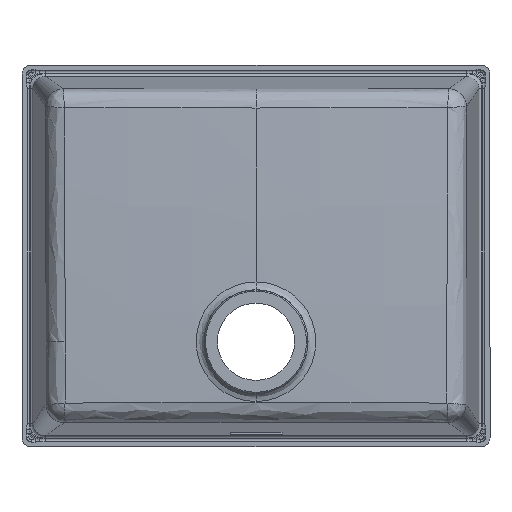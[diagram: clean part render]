
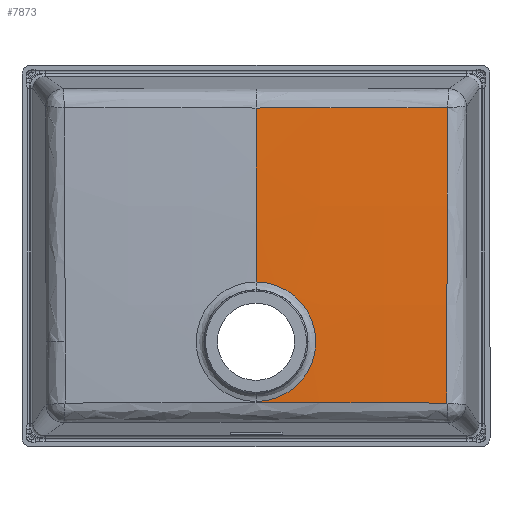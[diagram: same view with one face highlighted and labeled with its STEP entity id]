
A CAD part, front view. The second image highlights one B-rep face of the part: STEP entity #7873.
In plain terms, the highlighted free-form (B-spline) face has degree [3, 3] with [4, 4] control points.
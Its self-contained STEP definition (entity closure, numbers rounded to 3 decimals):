
#34 =( BOUNDED_SURFACE ( )  B_SPLINE_SURFACE ( 3, 3, ( 
 ( #6711, #5083, #10025, #4325 ),
 ( #3572, #121, #2854, #6071 ),
 ( #2815, #3613, #3717, #6934 ),
 ( #9383, #10349, #2777, #1256 ) ),
 .UNSPECIFIED., .F., .F., .F. ) 
 B_SPLINE_SURFACE_WITH_KNOTS ( ( 4, 4 ),
 ( 4, 4 ),
 ( 0., 1. ),
 ( 0., 1. ),
 .UNSPECIFIED. ) 
 GEOMETRIC_REPRESENTATION_ITEM ( )  RATIONAL_B_SPLINE_SURFACE ( (
 ( 1., 1., 1., 1.),
 ( 1., 0.999, 0.999, 1.),
 ( 1., 0.999, 0.999, 1.),
 ( 1., 1., 1., 1.) ) ) 
 REPRESENTATION_ITEM ( '' )  SURFACE ( )  );
#121 = CARTESIAN_POINT ( 'NONE',  ( 433.488, -207.493, -291.819 ) ) ;
#441 = ORIENTED_EDGE ( 'NONE', *, *, #4743, .T. ) ;
#702 = CARTESIAN_POINT ( 'NONE',  ( 285., 4738.597, 367.764 ) ) ;
#847 = ORIENTED_EDGE ( 'NONE', *, *, #10421, .F. ) ;
#916 = DIRECTION ( 'NONE',  ( 0., 0., -1. ) ) ;
#922 = AXIS2_PLACEMENT_3D ( 'NONE', #8863, #10536, #10641 ) ;
#1015 = CIRCLE ( 'NONE', #922, 4964.91 ) ;
#1205 = CIRCLE ( 'NONE', #3625, 4958.198 ) ;
#1256 = CARTESIAN_POINT ( 'NONE',  ( 285., -200.599, -61.899 ) ) ;
#1287 = CIRCLE ( 'NONE', #10539, 4982.322 ) ;
#1429 = DIRECTION ( 'NONE',  ( 0., 0., -1. ) ) ;
#1897 = ORIENTED_EDGE ( 'NONE', *, *, #6085, .T. ) ;
#2186 = CIRCLE ( 'NONE', #2963, 68.952 ) ;
#2232 = CARTESIAN_POINT ( 'NONE',  ( 285., -200.733, -64.371 ) ) ;
#2474 = VERTEX_POINT ( 'NONE', #6180 ) ;
#2512 = DIRECTION ( 'NONE',  ( 0., 0.087, -0.996 ) ) ;
#2538 = DIRECTION ( 'NONE',  ( 0., 0., 1. ) ) ;
#2542 = VERTEX_POINT ( 'NONE', #2232 ) ;
#2777 = CARTESIAN_POINT ( 'NONE',  ( 359.126, -200.599, -61.899 ) ) ;
#2808 = DIRECTION ( 'NONE',  ( 0., 0.996, -0.087 ) ) ;
#2815 = CARTESIAN_POINT ( 'NONE',  ( 507.565, -201.902, -176.786 ) ) ;
#2854 = CARTESIAN_POINT ( 'NONE',  ( 359.253, -209.143, -291.819 ) ) ;
#2963 = AXIS2_PLACEMENT_3D ( 'NONE', #3445, #8300, #2538 ) ;
#3054 = AXIS2_PLACEMENT_3D ( 'NONE', #5875, #9265, #916 ) ;
#3122 = CIRCLE ( 'NONE', #3054, 5008. ) ;
#3417 = EDGE_LOOP ( 'NONE', ( #847, #4323, #1897, #441, #7091, #7334 ) ) ;
#3445 = CARTESIAN_POINT ( 'NONE',  ( 285., -207.525, -334.07 ) ) ;
#3572 = CARTESIAN_POINT ( 'NONE',  ( 507.667, -204.192, -291.819 ) ) ;
#3613 = CARTESIAN_POINT ( 'NONE',  ( 433.42, -205.202, -176.786 ) ) ;
#3625 = AXIS2_PLACEMENT_3D ( 'NONE', #702, #2512, #4060 ) ;
#3717 = CARTESIAN_POINT ( 'NONE',  ( 359.219, -206.852, -176.786 ) ) ;
#4060 = DIRECTION ( 'NONE',  ( 0., -0.996, -0.087 ) ) ;
#4323 = ORIENTED_EDGE ( 'NONE', *, *, #5835, .F. ) ;
#4325 = CARTESIAN_POINT ( 'NONE',  ( 285., -207.471, -406.864 ) ) ;
#4712 = VERTEX_POINT ( 'NONE', #7181 ) ;
#4732 = VERTEX_POINT ( 'NONE', #5522 ) ;
#4743 = EDGE_CURVE ( 'NONE', #9010, #2542, #1205, .T. ) ;
#5083 = CARTESIAN_POINT ( 'NONE',  ( 433.438, -205.821, -406.864 ) ) ;
#5414 = CIRCLE ( 'NONE', #8055, 5008. ) ;
#5522 = CARTESIAN_POINT ( 'NONE',  ( 285., -207.506, -404.393 ) ) ;
#5669 = DIRECTION ( 'NONE',  ( -1., 0., 0. ) ) ;
#5835 = EDGE_CURVE ( 'NONE', #9418, #4732, #1287, .T. ) ;
#5875 = CARTESIAN_POINT ( 'NONE',  ( 285., 4800., -334.07 ) ) ;
#6071 = CARTESIAN_POINT ( 'NONE',  ( 285., -209.143, -291.819 ) ) ;
#6085 = EDGE_CURVE ( 'NONE', #9418, #9010, #1015, .T. ) ;
#6132 = CARTESIAN_POINT ( 'NONE',  ( 285., 4755.857, -838.631 ) ) ;
#6180 = CARTESIAN_POINT ( 'NONE',  ( 285., -207.525, -265.118 ) ) ;
#6711 = CARTESIAN_POINT ( 'NONE',  ( 507.593, -202.521, -406.864 ) ) ;
#6770 = EDGE_CURVE ( 'NONE', #2474, #2542, #5414, .T. ) ;
#6934 = CARTESIAN_POINT ( 'NONE',  ( 285., -206.852, -176.786 ) ) ;
#7091 = ORIENTED_EDGE ( 'NONE', *, *, #6770, .F. ) ;
#7181 = CARTESIAN_POINT ( 'NONE',  ( 285., -207.525, -403.022 ) ) ;
#7334 = ORIENTED_EDGE ( 'NONE', *, *, #9085, .T. ) ;
#7873 = ADVANCED_FACE ( 'NONE', ( #10691 ), #34, .T. ) ;
#7891 = CARTESIAN_POINT ( 'NONE',  ( 505.967, -195.825, -63.942 ) ) ;
#8017 = CARTESIAN_POINT ( 'NONE',  ( 285., 4800., -334.07 ) ) ;
#8055 = AXIS2_PLACEMENT_3D ( 'NONE', #8017, #5669, #1429 ) ;
#8300 = DIRECTION ( 'NONE',  ( 0., 1., 0. ) ) ;
#8863 = CARTESIAN_POINT ( 'NONE',  ( 938.047, 4742.866, -334.07 ) ) ;
#9010 = VERTEX_POINT ( 'NONE', #7891 ) ;
#9085 = EDGE_CURVE ( 'NONE', #2474, #4712, #2186, .T. ) ;
#9265 = DIRECTION ( 'NONE',  ( -1., 0., 0. ) ) ;
#9383 = CARTESIAN_POINT ( 'NONE',  ( 507.287, -195.656, -61.899 ) ) ;
#9418 = VERTEX_POINT ( 'NONE', #9693 ) ;
#9693 = CARTESIAN_POINT ( 'NONE',  ( 505.37, -202.649, -404.818 ) ) ;
#10025 = CARTESIAN_POINT ( 'NONE',  ( 359.228, -207.471, -406.864 ) ) ;
#10161 = DIRECTION ( 'NONE',  ( 0., -0.087, -0.996 ) ) ;
#10349 = CARTESIAN_POINT ( 'NONE',  ( 433.234, -198.951, -61.899 ) ) ;
#10421 = EDGE_CURVE ( 'NONE', #4732, #4712, #3122, .T. ) ;
#10536 = DIRECTION ( 'NONE',  ( -0.996, 0.087, 0. ) ) ;
#10539 = AXIS2_PLACEMENT_3D ( 'NONE', #6132, #10161, #2808 ) ;
#10641 = DIRECTION ( 'NONE',  ( 0.087, 0.996, 0. ) ) ;
#10691 = FACE_OUTER_BOUND ( 'NONE', #3417, .T. ) ;
